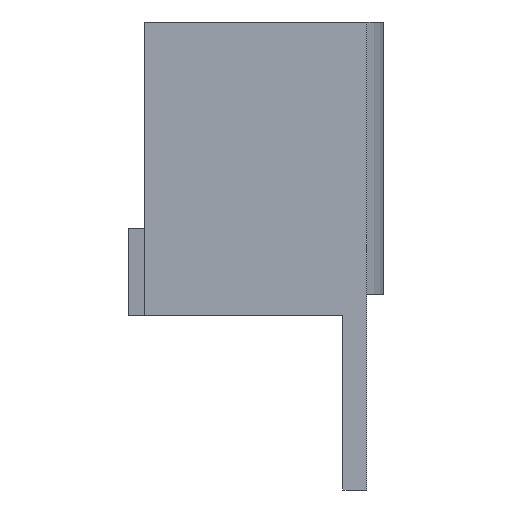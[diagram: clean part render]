
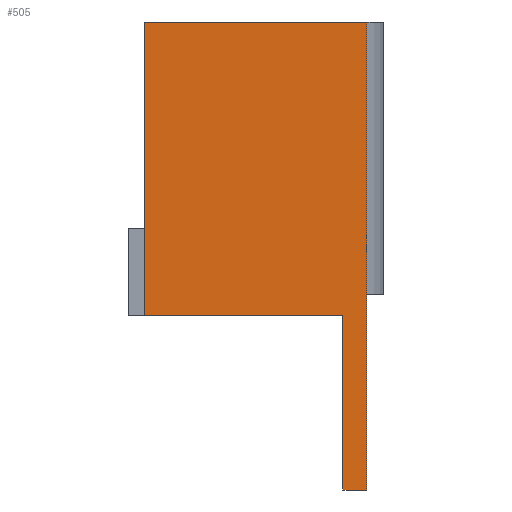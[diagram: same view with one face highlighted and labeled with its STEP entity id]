
A CAD part, front view. The second image highlights one B-rep face of the part: STEP entity #505.
In plain terms, the highlighted planar face has unit normal (0, -1, 0).
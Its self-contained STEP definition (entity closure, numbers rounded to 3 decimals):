
#14 = CARTESIAN_POINT ( 'NONE',  ( 0., 0., 0. ) ) ;
#15 = DIRECTION ( 'NONE',  ( 1., 0., 0. ) ) ;
#30 = CARTESIAN_POINT ( 'NONE',  ( 20.466, 0., -16. ) ) ;
#31 = DIRECTION ( 'NONE',  ( -1., 0., 0. ) ) ;
#32 = CARTESIAN_POINT ( 'NONE',  ( 0., 0., 27. ) ) ;
#33 = DIRECTION ( 'NONE',  ( 1., 0., 0. ) ) ;
#50 = VERTEX_POINT ( 'NONE', #470 ) ;
#80 = CARTESIAN_POINT ( 'NONE',  ( 0., 0., 27. ) ) ;
#81 = DIRECTION ( 'NONE',  ( 0., 0., -1. ) ) ;
#91 = CARTESIAN_POINT ( 'NONE',  ( 20.466, 0., 27. ) ) ;
#116 = CARTESIAN_POINT ( 'NONE',  ( 0., 0., 27. ) ) ;
#135 = VERTEX_POINT ( 'NONE', #469 ) ;
#136 = VERTEX_POINT ( 'NONE', #476 ) ;
#139 = VERTEX_POINT ( 'NONE', #479 ) ;
#143 = VERTEX_POINT ( 'NONE', #483 ) ;
#146 = PLANE ( 'NONE',  #459 ) ;
#148 = CARTESIAN_POINT ( 'NONE',  ( 0., 0., 27. ) ) ;
#149 = DIRECTION ( 'NONE',  ( 0., 1., 0. ) ) ;
#150 = DIRECTION ( 'NONE',  ( 0., 0., 1. ) ) ;
#230 = VECTOR ( 'NONE', #33, 1000. ) ;
#231 = LINE ( 'NONE', #32, #230 ) ;
#232 = VECTOR ( 'NONE', #31, 1000. ) ;
#233 = LINE ( 'NONE', #30, #232 ) ;
#249 = VECTOR ( 'NONE', #15, 1000. ) ;
#250 = LINE ( 'NONE', #14, #249 ) ;
#252 = FACE_OUTER_BOUND ( 'NONE', #301, .T. ) ;
#276 = VECTOR ( 'NONE', #489, 1000. ) ;
#300 = LINE ( 'NONE', #485, #276 ) ;
#301 = EDGE_LOOP ( 'NONE', ( #316, #342, #327, #340, #310, #312 ) ) ;
#303 = VECTOR ( 'NONE', #503, 1000. ) ;
#308 = LINE ( 'NONE', #91, #303 ) ;
#310 = ORIENTED_EDGE ( 'NONE', *, *, #450, .F. ) ;
#312 = ORIENTED_EDGE ( 'NONE', *, *, #425, .T. ) ;
#316 = ORIENTED_EDGE ( 'NONE', *, *, #438, .T. ) ;
#327 = ORIENTED_EDGE ( 'NONE', *, *, #449, .F. ) ;
#340 = ORIENTED_EDGE ( 'NONE', *, *, #432, .F. ) ;
#342 = ORIENTED_EDGE ( 'NONE', *, *, #397, .F. ) ;
#351 = VECTOR ( 'NONE', #81, 1000. ) ;
#352 = LINE ( 'NONE', #80, #351 ) ;
#397 = EDGE_CURVE ( 'NONE', #50, #139, #300, .T. ) ;
#425 = EDGE_CURVE ( 'NONE', #521, #143, #352, .T. ) ;
#432 = EDGE_CURVE ( 'NONE', #135, #136, #308, .T. ) ;
#438 = EDGE_CURVE ( 'NONE', #143, #139, #250, .T. ) ;
#449 = EDGE_CURVE ( 'NONE', #136, #50, #233, .T. ) ;
#450 = EDGE_CURVE ( 'NONE', #521, #135, #231, .T. ) ;
#459 = AXIS2_PLACEMENT_3D ( 'NONE', #148, #149, #150 ) ;
#469 = CARTESIAN_POINT ( 'NONE',  ( 20.466, 0., 27. ) ) ;
#470 = CARTESIAN_POINT ( 'NONE',  ( 18.266, 0., -16. ) ) ;
#476 = CARTESIAN_POINT ( 'NONE',  ( 20.466, 0., -16. ) ) ;
#479 = CARTESIAN_POINT ( 'NONE',  ( 18.266, 0., 0. ) ) ;
#483 = CARTESIAN_POINT ( 'NONE',  ( 0., 0., 0. ) ) ;
#485 = CARTESIAN_POINT ( 'NONE',  ( 18.266, 0., -16. ) ) ;
#489 = DIRECTION ( 'NONE',  ( 0., 0., 1. ) ) ;
#503 = DIRECTION ( 'NONE',  ( 0., 0., -1. ) ) ;
#505 = ADVANCED_FACE ( 'NONE', ( #252 ), #146, .F. ) ;
#521 = VERTEX_POINT ( 'NONE', #116 ) ;
